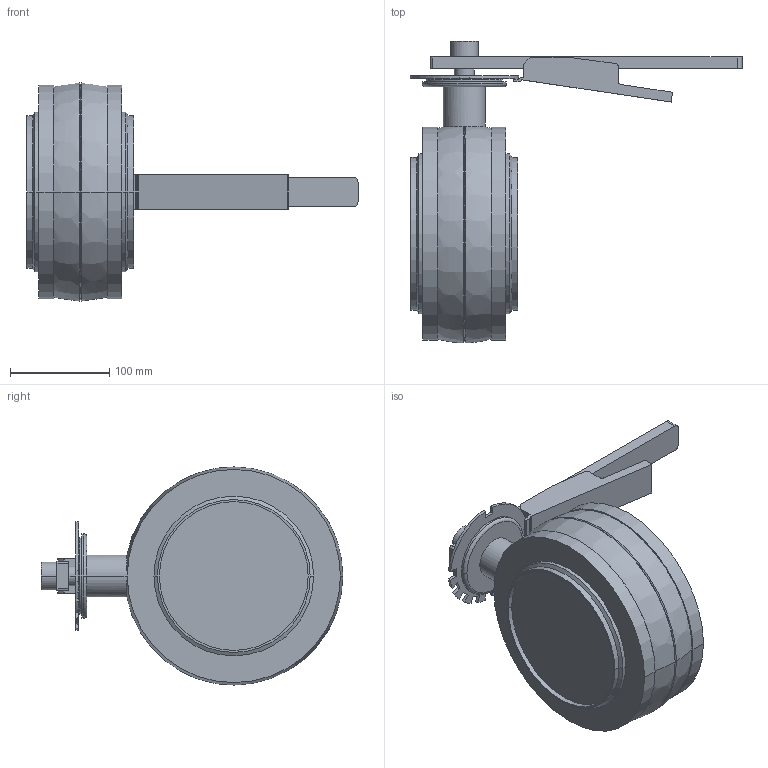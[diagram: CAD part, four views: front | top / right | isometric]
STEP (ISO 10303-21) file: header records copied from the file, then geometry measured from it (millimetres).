
FILE_DESCRIPTION(('OneSpaceDesigner STEP Export'),'2;1');
FILE_NAME('SVS1F-150-H-12S.stp','2007-06-01T10:05:40',(''),(''),'OneSpace Designer STEP processor for AP214 (Solid Model)','OneSpace Modeling 15.00 06-Feb-2007 (C) CoCreate Software GmbH','');
FILE_SCHEMA(('AUTOMOTIVE_DESIGN { 1 0 10303 214 1 1 1 1 }'));
Length unit declared in the file: millimetre
Products named in the file (3): SVS1F-150-H-12S; SVS1F-150-H-12S-vereint; SVS1F-150-H-12S.stp
Assembly tree (2 placements, depth 3):
  SVS1F-150-H-12S.stp
    SVS1F-150-H-12S-vereint
      SVS1F-150-H-12S
Bounding box: 334.76 x 304.29 x 219.98 mm (x, y, z)
Volume: 3717120.4 mm3; surface area: 213245.6 mm2
Topology: 1 solids, 1 shells, 130 faces, 333 edges, 217 vertices
Faces by surface type: plane 62, cylinder 50, cone 12, torus 6
Entity records: 4349 total; most frequent: CARTESIAN_POINT 1310, ORIENTED_EDGE 666, DIRECTION 568, EDGE_CURVE 333, VERTEX_POINT 217, AXIS2_PLACEMENT_3D 190, VECTOR 188, LINE 188
